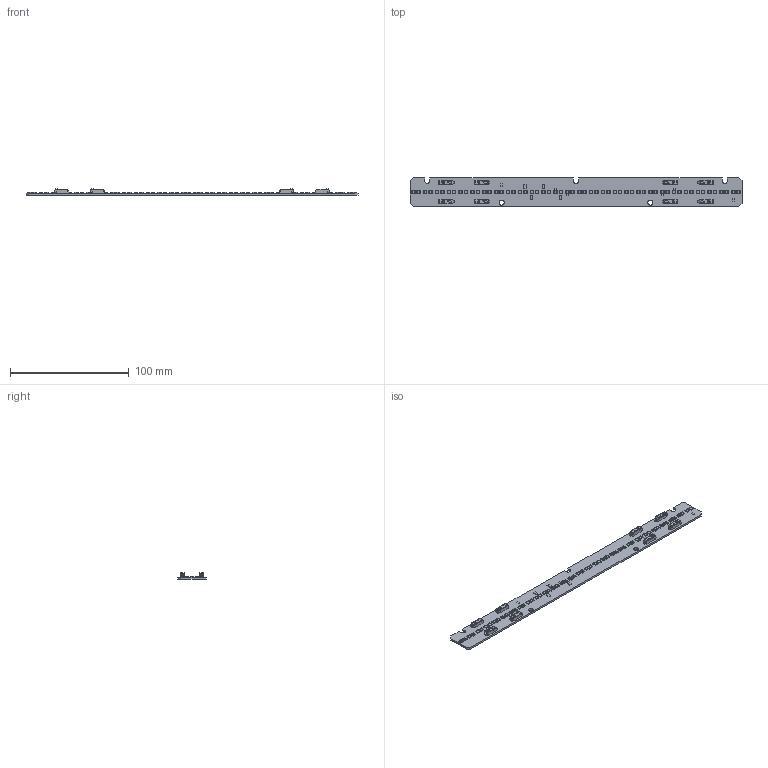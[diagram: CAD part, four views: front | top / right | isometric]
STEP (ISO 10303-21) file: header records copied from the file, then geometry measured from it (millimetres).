
FILE_DESCRIPTION((''),'2;1');
FILE_NAME('16207824_LLE-G2-TW-24X280-1500','2017-09-19T',('bernhard.fink'),(''),'PRO/ENGINEER BY PARAMETRIC TECHNOLOGY CORPORATION, 2015200','PRO/ENGINEER BY PARAMETRIC TECHNOLOGY CORPORATION, 2015200','');
FILE_SCHEMA(('AUTOMOTIVE_DESIGN { 1 0 10303 214 1 1 1 1 }'));
Products named in the file (1): 16207824_LLE-G2-TW-24X280-1500
Bounding box: 279 x 23.6 x 5.1 mm (x, y, z)
Surface area: 16105.5 mm2 (no closed solid volume)
Topology: 0 solids, 1 shells, 3845 faces, 9772 edges, 5891 vertices
Faces by surface type: plane 1637, cylinder 1280, bspline 472, sphere 272, cone 136, torus 48
Entity records: 187578 total; most frequent: CARTESIAN_POINT 43679, ORIENTED_EDGE 19032, DIRECTION 16978, PRESENTATION_STYLE_ASSIGNMENT 13370, STYLED_ITEM 9517, CURVE_STYLE 9516, EDGE_CURVE 9516, VERTEX_POINT 5891
